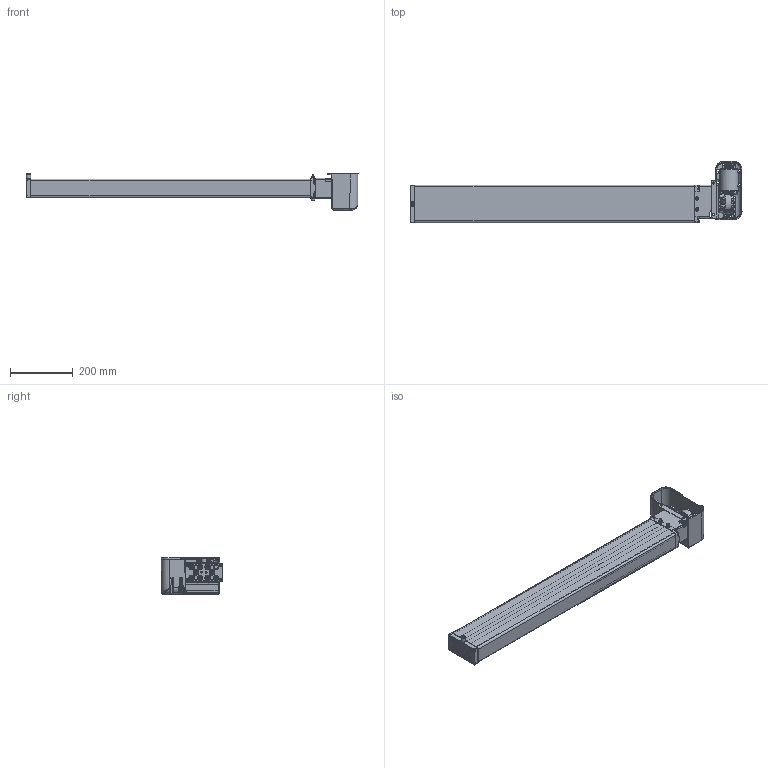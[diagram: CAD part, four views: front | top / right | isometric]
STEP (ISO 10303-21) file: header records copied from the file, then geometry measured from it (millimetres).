
FILE_DESCRIPTION(/* description */ ('Unknown'),/* implementation_level */ '2;1');
FILE_NAME(/* name */ '3X2.20186 Pumpe PB 9440 W mit Antrieb',/* time_stamp */ '2016-11-25T14:00:54+01:00',/* author */ ('Unknown'),/* organization */ ('Unknown'),/* preprocessor_version */ 'ST-DEVELOPER v16.7',/* originating_system */ 'DEX',/* authorisation */ $);
FILE_SCHEMA (('AUTOMOTIVE_DESIGN {1 0 10303 214 3 1 1}'));
Products named in the file (32): 102.00186; 115.10027; 125.00031; 115.00007; 142.00021; 125.00021; 142.00013; 125.00147; 115.00140; 126.00006; 122.00040; 119.00047; 126.00036; 127.00201; 127.00200; 127.00023; 124.00090; Getriebe; Ring; Schraube; Stator; Abdeckplatte; Antriebswelle; 128.00051; 123.00031; 142.00018; 142.00019; 142.00025; 142.00131; 123.00029; 142.00057; 142.00017
Assembly tree (52 placements, depth 3):
  102.00186
    115.10027  x9
      125.00031
      115.00007
      142.00021
      125.00021
    142.00013  x8
    125.00147
    115.00140
      126.00006
      122.00040
    119.00047
    126.00036
    127.00201
      127.00200
      127.00023
    124.00090
      Getriebe
      Ring
      Schraube
      Stator
      Abdeckplatte
      Antriebswelle
    128.00051
    123.00031
    142.00018  x2
    142.00019  x2
    142.00025  x2
    142.00131  x3
    123.00029
    142.00057
    142.00017  x2
Bounding box: 1059.45 x 196.04 x 115.45 mm (x, y, z)
Volume: 1576728.2 mm3; surface area: 1056876.2 mm2
Topology: 63 solids, 65 shells, 4415 faces, 11073 edges, 6795 vertices
Faces by surface type: plane 1379, cylinder 1195, bspline 1040, cone 504, torus 198, sphere 99
Full cylindrical faces by diameter (mm): 2.5 x4, 3.2 x4, 3.5 x9, 3.9 x5, 4.1 x9, 4.134 x4, 4.2 x11, 4.4 x5, 4.5 x1, 4.917 x4, 5 x8, 5.5 x5, 5.8 x4, 6 x8, 6.4 x2, 6.8 x6, 6.917 x18, 7 x1, 8 x20, 8.5 x6, 9 x11, 9.5 x1, 9.8 x8, 10 x10, 10.3 x1, 10.32 x1, 10.4 x1, 10.5 x4, 11 x5, 12.5 x9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
Entity records: 164944 total; most frequent: CARTESIAN_POINT 80621, ORIENTED_EDGE 16008, DIRECTION 12025, EDGE_CURVE 8004, VERTEX_POINT 5254, AXIS2_PLACEMENT_3D 4656, FACE_BOUND 4000, EDGE_LOOP 3995
